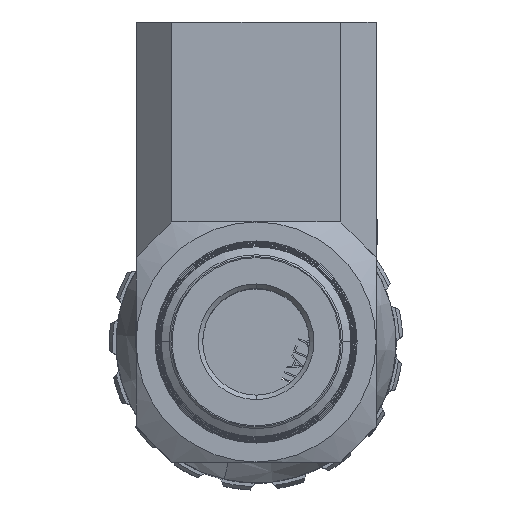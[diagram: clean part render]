
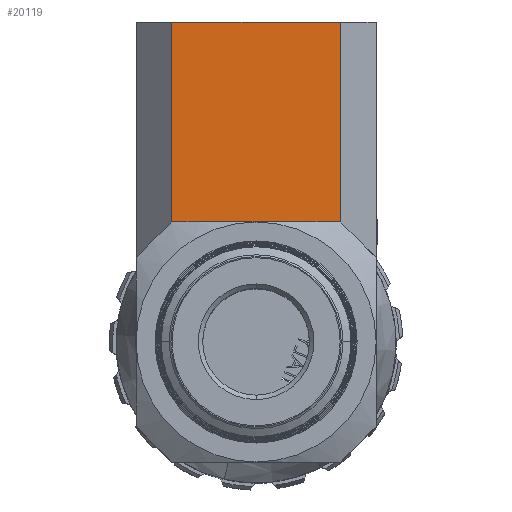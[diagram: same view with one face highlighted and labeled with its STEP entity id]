
A CAD part, top view. The second image highlights one B-rep face of the part: STEP entity #20119.
In plain terms, the highlighted planar face has unit normal (0, 0, 1).
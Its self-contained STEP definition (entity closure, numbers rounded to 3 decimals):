
#3731 = DIRECTION ( 'NONE',  ( 0., -1., 0. ) ) ;
#3920 = ORIENTED_EDGE ( 'NONE', *, *, #25150, .T. ) ;
#4536 = CARTESIAN_POINT ( 'NONE',  ( 9.5, 35.995, 5. ) ) ;
#9136 = AXIS2_PLACEMENT_3D ( 'NONE', #10671, #28956, #13304 ) ;
#9164 = ORIENTED_EDGE ( 'NONE', *, *, #27693, .T. ) ;
#9609 = DIRECTION ( 'NONE',  ( 0., 1., 0. ) ) ;
#9678 = VECTOR ( 'NONE', #18584, 1000. ) ;
#9862 = VECTOR ( 'NONE', #23361, 1000. ) ;
#10581 = EDGE_LOOP ( 'NONE', ( #13507, #25684, #9164, #3920 ) ) ;
#10671 = CARTESIAN_POINT ( 'NONE',  ( -13.5, 36., 5. ) ) ;
#13304 = DIRECTION ( 'NONE',  ( -1., 0., 0. ) ) ;
#13507 = ORIENTED_EDGE ( 'NONE', *, *, #20055, .F. ) ;
#14352 = FACE_OUTER_BOUND ( 'NONE', #10581, .T. ) ;
#15801 = CARTESIAN_POINT ( 'NONE',  ( 9.5, 13.5, 5. ) ) ;
#15878 = VERTEX_POINT ( 'NONE', #17150 ) ;
#15954 = CARTESIAN_POINT ( 'NONE',  ( -13.5, 13.5, 5. ) ) ;
#16820 = LINE ( 'NONE', #33801, #9862 ) ;
#16958 = LINE ( 'NONE', #25228, #30899 ) ;
#17150 = CARTESIAN_POINT ( 'NONE',  ( -9.5, 13.5, 5. ) ) ;
#18294 = VERTEX_POINT ( 'NONE', #4536 ) ;
#18584 = DIRECTION ( 'NONE',  ( 1., 0., 0. ) ) ;
#18695 = EDGE_CURVE ( 'NONE', #24875, #15878, #32821, .T. ) ;
#20055 = EDGE_CURVE ( 'NONE', #24875, #18294, #16820, .T. ) ;
#20119 = ADVANCED_FACE ( 'NONE', ( #14352 ), #26213, .F. ) ;
#23361 = DIRECTION ( 'NONE',  ( 1., 0., 0. ) ) ;
#24396 = LINE ( 'NONE', #15954, #9678 ) ;
#24591 = CARTESIAN_POINT ( 'NONE',  ( -9.5, 36., 5. ) ) ;
#24875 = VERTEX_POINT ( 'NONE', #29079 ) ;
#25150 = EDGE_CURVE ( 'NONE', #31411, #18294, #16958, .T. ) ;
#25228 = CARTESIAN_POINT ( 'NONE',  ( 9.5, 36., 5. ) ) ;
#25684 = ORIENTED_EDGE ( 'NONE', *, *, #18695, .T. ) ;
#25827 = VECTOR ( 'NONE', #3731, 1000. ) ;
#26213 = PLANE ( 'NONE',  #9136 ) ;
#27693 = EDGE_CURVE ( 'NONE', #15878, #31411, #24396, .T. ) ;
#28956 = DIRECTION ( 'NONE',  ( 0., 0., -1. ) ) ;
#29079 = CARTESIAN_POINT ( 'NONE',  ( -9.5, 35.995, 5. ) ) ;
#30899 = VECTOR ( 'NONE', #9609, 1000. ) ;
#31411 = VERTEX_POINT ( 'NONE', #15801 ) ;
#32821 = LINE ( 'NONE', #24591, #25827 ) ;
#33801 = CARTESIAN_POINT ( 'NONE',  ( -13.5, 35.995, 5. ) ) ;
